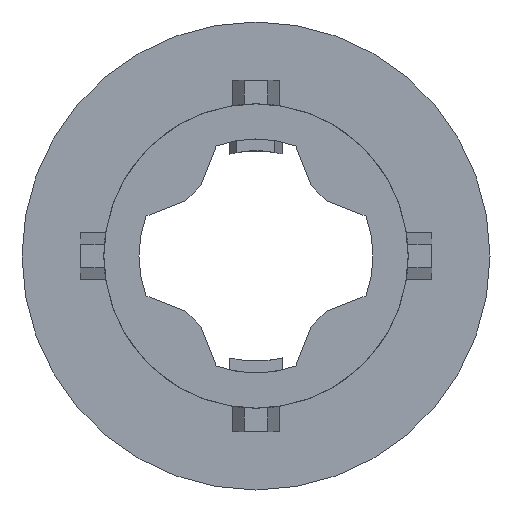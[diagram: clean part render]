
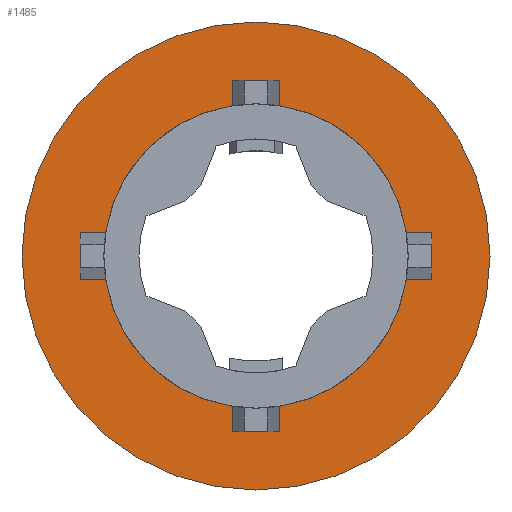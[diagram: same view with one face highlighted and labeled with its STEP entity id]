
A CAD part, left-side view. The second image highlights one B-rep face of the part: STEP entity #1485.
In plain terms, the highlighted planar face has unit normal (-1, 0, 0).
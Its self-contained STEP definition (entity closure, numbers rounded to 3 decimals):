
#23=PLANE('',#1628);
#116=LINE('',#2366,#256);
#117=LINE('',#2368,#257);
#118=LINE('',#2370,#258);
#119=LINE('',#2371,#259);
#120=LINE('',#2373,#260);
#121=LINE('',#2375,#261);
#122=LINE('',#2376,#262);
#123=LINE('',#2378,#263);
#124=LINE('',#2380,#264);
#125=LINE('',#2381,#265);
#126=LINE('',#2383,#266);
#127=LINE('',#2385,#267);
#256=VECTOR('',#1882,1000.);
#257=VECTOR('',#1883,1000.);
#258=VECTOR('',#1884,1000.);
#259=VECTOR('',#1885,1000.);
#260=VECTOR('',#1886,1000.);
#261=VECTOR('',#1887,1000.);
#262=VECTOR('',#1888,1000.);
#263=VECTOR('',#1889,1000.);
#264=VECTOR('',#1890,1000.);
#265=VECTOR('',#1891,1000.);
#266=VECTOR('',#1892,1000.);
#267=VECTOR('',#1893,1000.);
#490=ORIENTED_EDGE('',*,*,#929,.F.);
#491=ORIENTED_EDGE('',*,*,#930,.T.);
#492=ORIENTED_EDGE('',*,*,#931,.T.);
#493=ORIENTED_EDGE('',*,*,#926,.F.);
#494=ORIENTED_EDGE('',*,*,#932,.T.);
#495=ORIENTED_EDGE('',*,*,#933,.F.);
#496=ORIENTED_EDGE('',*,*,#934,.F.);
#497=ORIENTED_EDGE('',*,*,#922,.F.);
#498=ORIENTED_EDGE('',*,*,#935,.T.);
#499=ORIENTED_EDGE('',*,*,#936,.F.);
#500=ORIENTED_EDGE('',*,*,#937,.F.);
#501=ORIENTED_EDGE('',*,*,#918,.F.);
#502=ORIENTED_EDGE('',*,*,#938,.F.);
#503=ORIENTED_EDGE('',*,*,#939,.T.);
#504=ORIENTED_EDGE('',*,*,#940,.T.);
#505=ORIENTED_EDGE('',*,*,#914,.F.);
#506=ORIENTED_EDGE('',*,*,#941,.T.);
#914=EDGE_CURVE('',#1131,#1133,#1247,.T.);
#918=EDGE_CURVE('',#1136,#1137,#1249,.T.);
#922=EDGE_CURVE('',#1140,#1141,#1251,.T.);
#926=EDGE_CURVE('',#1144,#1145,#1253,.T.);
#929=EDGE_CURVE('',#1147,#1131,#116,.T.);
#930=EDGE_CURVE('',#1147,#1148,#117,.T.);
#931=EDGE_CURVE('',#1148,#1145,#118,.T.);
#932=EDGE_CURVE('',#1144,#1149,#119,.T.);
#933=EDGE_CURVE('',#1150,#1149,#120,.T.);
#934=EDGE_CURVE('',#1141,#1150,#121,.T.);
#935=EDGE_CURVE('',#1140,#1151,#122,.T.);
#936=EDGE_CURVE('',#1152,#1151,#123,.T.);
#937=EDGE_CURVE('',#1137,#1152,#124,.T.);
#938=EDGE_CURVE('',#1153,#1136,#125,.T.);
#939=EDGE_CURVE('',#1153,#1154,#126,.T.);
#940=EDGE_CURVE('',#1154,#1133,#127,.T.);
#941=EDGE_CURVE('',#1155,#1155,#1255,.T.);
#1131=VERTEX_POINT('',#2334);
#1133=VERTEX_POINT('',#2337);
#1136=VERTEX_POINT('',#2343);
#1137=VERTEX_POINT('',#2345);
#1140=VERTEX_POINT('',#2351);
#1141=VERTEX_POINT('',#2353);
#1144=VERTEX_POINT('',#2359);
#1145=VERTEX_POINT('',#2361);
#1147=VERTEX_POINT('',#2367);
#1148=VERTEX_POINT('',#2369);
#1149=VERTEX_POINT('',#2372);
#1150=VERTEX_POINT('',#2374);
#1151=VERTEX_POINT('',#2377);
#1152=VERTEX_POINT('',#2379);
#1153=VERTEX_POINT('',#2382);
#1154=VERTEX_POINT('',#2384);
#1155=VERTEX_POINT('',#2387);
#1247=CIRCLE('',#1613,5.2);
#1249=CIRCLE('',#1617,5.2);
#1251=CIRCLE('',#1621,5.2);
#1253=CIRCLE('',#1625,5.2);
#1255=CIRCLE('',#1629,8.);
#1289=EDGE_LOOP('',(#490,#491,#492,#493,#494,#495,#496,#497,#498,#499,#500,
#501,#502,#503,#504,#505));
#1290=EDGE_LOOP('',(#506));
#1383=FACE_BOUND('',#1289,.T.);
#1384=FACE_BOUND('',#1290,.T.);
#1485=ADVANCED_FACE('',(#1383,#1384),#23,.T.);
#1613=AXIS2_PLACEMENT_3D('',#2336,#1850,#1851);
#1617=AXIS2_PLACEMENT_3D('',#2344,#1858,#1859);
#1621=AXIS2_PLACEMENT_3D('',#2352,#1866,#1867);
#1625=AXIS2_PLACEMENT_3D('',#2360,#1874,#1875);
#1628=AXIS2_PLACEMENT_3D('',#2365,#1880,#1881);
#1629=AXIS2_PLACEMENT_3D('',#2386,#1894,#1895);
#1850=DIRECTION('',(-1.,0.,0.));
#1851=DIRECTION('',(0.,0.,1.));
#1858=DIRECTION('',(-1.,0.,0.));
#1859=DIRECTION('',(0.,0.,1.));
#1866=DIRECTION('',(-1.,0.,0.));
#1867=DIRECTION('',(0.,0.,1.));
#1874=DIRECTION('',(-1.,0.,0.));
#1875=DIRECTION('',(0.,0.,1.));
#1880=DIRECTION('',(-1.,0.,0.));
#1881=DIRECTION('',(0.,0.,1.));
#1882=DIRECTION('',(0.,1.,0.));
#1883=DIRECTION('',(0.,0.,-1.));
#1884=DIRECTION('',(0.,1.,0.));
#1885=DIRECTION('',(0.,0.,-1.));
#1886=DIRECTION('',(0.,-1.,0.));
#1887=DIRECTION('',(0.,0.,-1.));
#1888=DIRECTION('',(0.,1.,0.));
#1889=DIRECTION('',(0.,0.,-1.));
#1890=DIRECTION('',(0.,1.,0.));
#1891=DIRECTION('',(0.,0.,-1.));
#1892=DIRECTION('',(0.,-1.,0.));
#1893=DIRECTION('',(0.,0.,-1.));
#1894=DIRECTION('',(-1.,0.,0.));
#1895=DIRECTION('',(0.,0.,1.));
#2334=CARTESIAN_POINT('',(-3.6,-5.138,0.8));
#2336=CARTESIAN_POINT('',(-3.6,0.,0.));
#2337=CARTESIAN_POINT('',(-3.6,-0.8,5.138));
#2343=CARTESIAN_POINT('',(-3.6,0.8,5.138));
#2344=CARTESIAN_POINT('',(-3.6,0.,0.));
#2345=CARTESIAN_POINT('',(-3.6,5.138,0.8));
#2351=CARTESIAN_POINT('',(-3.6,5.138,-0.8));
#2352=CARTESIAN_POINT('',(-3.6,0.,0.));
#2353=CARTESIAN_POINT('',(-3.6,0.8,-5.138));
#2359=CARTESIAN_POINT('',(-3.6,-0.8,-5.138));
#2360=CARTESIAN_POINT('',(-3.6,0.,0.));
#2361=CARTESIAN_POINT('',(-3.6,-5.138,-0.8));
#2365=CARTESIAN_POINT('',(-3.6,0.,5.2));
#2366=CARTESIAN_POINT('',(-3.6,-6.,0.8));
#2367=CARTESIAN_POINT('',(-3.6,-6.,0.8));
#2368=CARTESIAN_POINT('',(-3.6,-6.,0.));
#2369=CARTESIAN_POINT('',(-3.6,-6.,-0.8));
#2370=CARTESIAN_POINT('',(-3.6,-6.,-0.8));
#2371=CARTESIAN_POINT('',(-3.6,-0.8,6.));
#2372=CARTESIAN_POINT('',(-3.6,-0.8,-6.));
#2373=CARTESIAN_POINT('',(-3.6,0.,-6.));
#2374=CARTESIAN_POINT('',(-3.6,0.8,-6.));
#2375=CARTESIAN_POINT('',(-3.6,0.8,6.));
#2376=CARTESIAN_POINT('',(-3.6,-6.,-0.8));
#2377=CARTESIAN_POINT('',(-3.6,6.,-0.8));
#2378=CARTESIAN_POINT('',(-3.6,6.,0.));
#2379=CARTESIAN_POINT('',(-3.6,6.,0.8));
#2380=CARTESIAN_POINT('',(-3.6,-6.,0.8));
#2381=CARTESIAN_POINT('',(-3.6,0.8,6.));
#2382=CARTESIAN_POINT('',(-3.6,0.8,6.));
#2383=CARTESIAN_POINT('',(-3.6,0.,6.));
#2384=CARTESIAN_POINT('',(-3.6,-0.8,6.));
#2385=CARTESIAN_POINT('',(-3.6,-0.8,6.));
#2386=CARTESIAN_POINT('',(-3.6,0.,0.));
#2387=CARTESIAN_POINT('',(-3.6,0.,8.));
